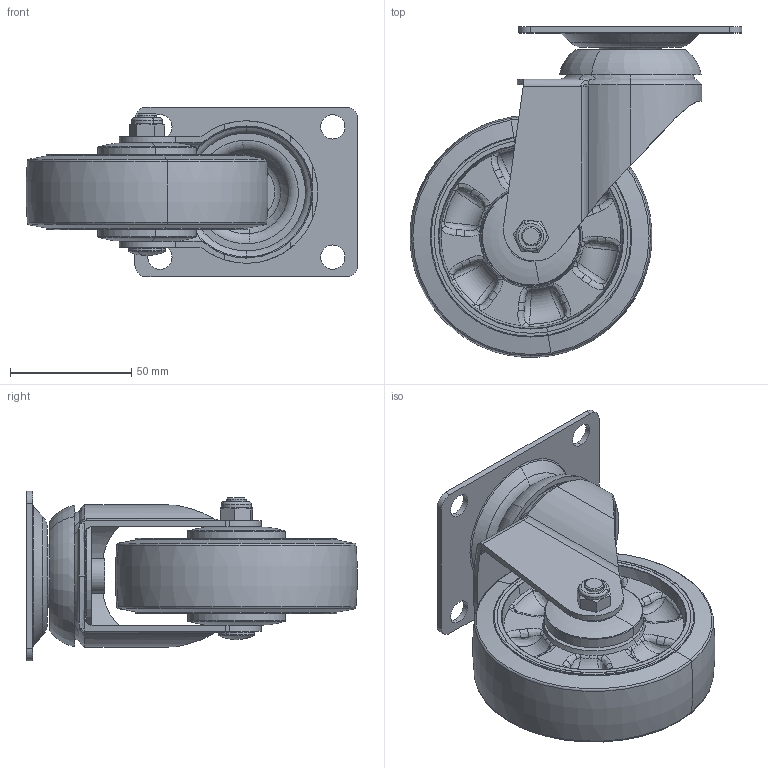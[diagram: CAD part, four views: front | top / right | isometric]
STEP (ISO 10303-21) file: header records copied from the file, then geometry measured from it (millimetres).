
FILE_DESCRIPTION (( 'STEP AP203' ), '1' );
FILE_NAME ('4111604002024-儀器白鐵活動WMRC輪.STEP', '2025-11-20T02:17:58', ( '' ), ( '' ), 'SwSTEP 2.0', 'SolidWorks 2019', '' );
FILE_SCHEMA (( 'CONFIG_CONTROL_DESIGN' ));
Length unit declared in the file: metre
Products named in the file (1): 4111604002024-儀器白鐵活動WMRC輪
Bounding box: 136.87 x 136.32 x 70 mm (x, y, z)
Surface area: 74629.8 mm2 (no closed solid volume)
Topology: 0 solids, 27 shells, 504 faces, 1281 edges, 785 vertices
Faces by surface type: bspline 196, torus 108, plane 60, cone 58, cylinder 56, sphere 26
Entity records: 28013 total; most frequent: CARTESIAN_POINT 17391, ORIENTED_EDGE 2333, DIRECTION 2037, EDGE_CURVE 1219, AXIS2_PLACEMENT_3D 933, VERTEX_POINT 749, CIRCLE 624, EDGE_LOOP 527
